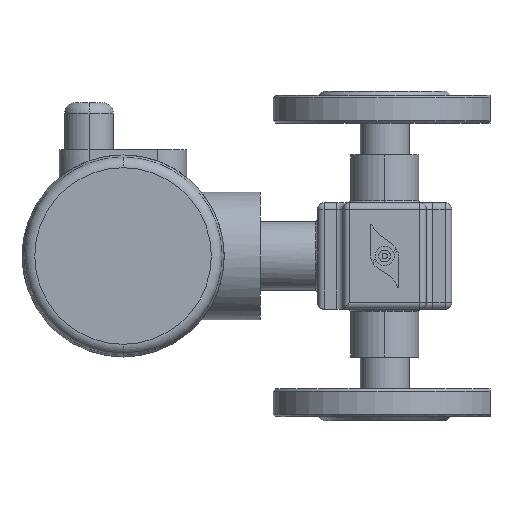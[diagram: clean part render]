
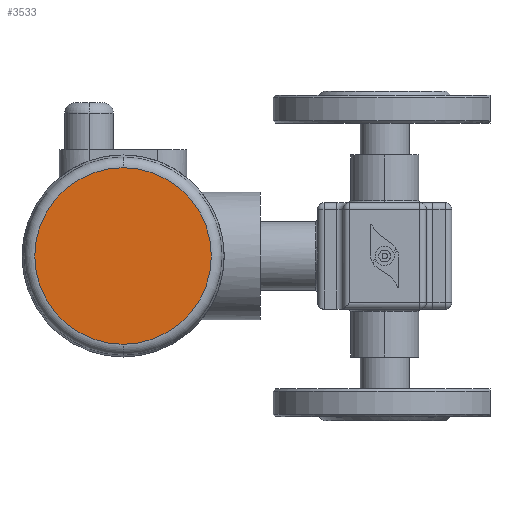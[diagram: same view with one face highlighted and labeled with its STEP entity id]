
A CAD part, left-side view. The second image highlights one B-rep face of the part: STEP entity #3533.
In plain terms, the highlighted planar face has unit normal (-1, 0, 0).
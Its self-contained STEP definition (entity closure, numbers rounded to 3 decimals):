
#231 = VERTEX_POINT ( 'NONE', #1895 ) ;
#594 = CIRCLE ( 'NONE', #3612, 41.5 ) ;
#1344 = CARTESIAN_POINT ( 'NONE',  ( -62., 123., -70. ) ) ;
#1630 = EDGE_LOOP ( 'NONE', ( #5693, #5766 ) ) ;
#1863 = DIRECTION ( 'NONE',  ( 0., 0., -1. ) ) ;
#1895 = CARTESIAN_POINT ( 'NONE',  ( -62., 123., -111.5 ) ) ;
#2040 = DIRECTION ( 'NONE',  ( -1., 0., 0. ) ) ;
#2349 = PLANE ( 'NONE',  #5393 ) ;
#2511 = EDGE_CURVE ( 'NONE', #231, #3506, #4216, .T. ) ;
#3393 = DIRECTION ( 'NONE',  ( 0., 0., -1. ) ) ;
#3506 = VERTEX_POINT ( 'NONE', #5432 ) ;
#3533 = ADVANCED_FACE ( 'NONE', ( #5747 ), #2349, .F. ) ;
#3612 = AXIS2_PLACEMENT_3D ( 'NONE', #5161, #2040, #5646 ) ;
#4216 = CIRCLE ( 'NONE', #6244, 41.5 ) ;
#4256 = EDGE_CURVE ( 'NONE', #3506, #231, #594, .T. ) ;
#4993 = DIRECTION ( 'NONE',  ( -1., 0., 0. ) ) ;
#5161 = CARTESIAN_POINT ( 'NONE',  ( -62., 123., -70. ) ) ;
#5393 = AXIS2_PLACEMENT_3D ( 'NONE', #5971, #6501, #3393 ) ;
#5432 = CARTESIAN_POINT ( 'NONE',  ( -62., 123., -28.5 ) ) ;
#5646 = DIRECTION ( 'NONE',  ( 0., 0., -1. ) ) ;
#5693 = ORIENTED_EDGE ( 'NONE', *, *, #2511, .T. ) ;
#5747 = FACE_OUTER_BOUND ( 'NONE', #1630, .T. ) ;
#5766 = ORIENTED_EDGE ( 'NONE', *, *, #4256, .T. ) ;
#5971 = CARTESIAN_POINT ( 'NONE',  ( -62., 123., -116.5 ) ) ;
#6244 = AXIS2_PLACEMENT_3D ( 'NONE', #1344, #4993, #1863 ) ;
#6501 = DIRECTION ( 'NONE',  ( 1., 0., 0. ) ) ;
